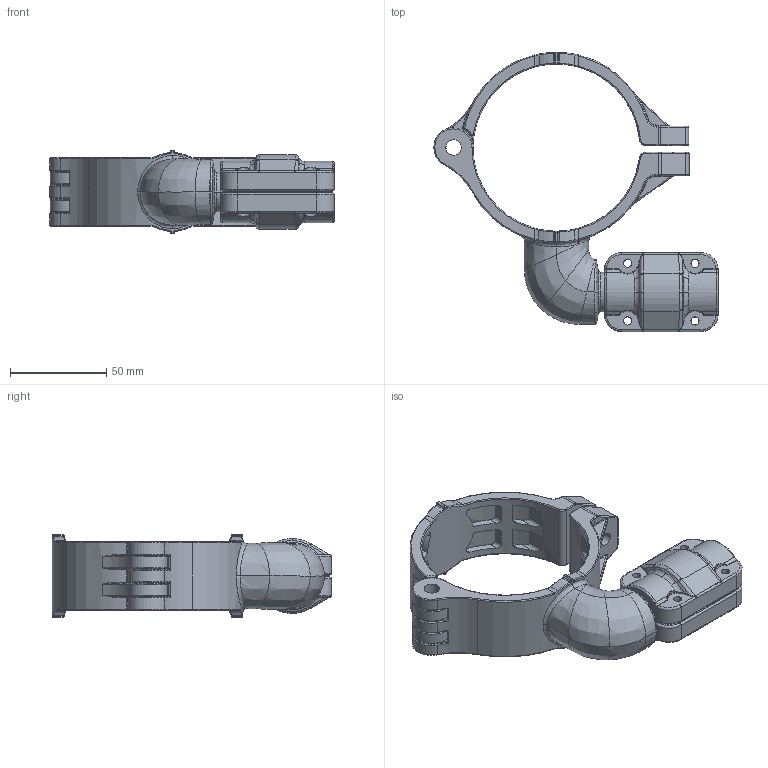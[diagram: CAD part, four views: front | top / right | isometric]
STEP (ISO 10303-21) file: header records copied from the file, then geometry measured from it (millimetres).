
FILE_DESCRIPTION((''),'2;1');
FILE_NAME('2015711099_ASM_4_ASM','2017-05-15T',('Administrator'),(''),'PRO/ENGINEER BY PARAMETRIC TECHNOLOGY CORPORATION, 2009360','PRO/ENGINEER BY PARAMETRIC TECHNOLOGY CORPORATION, 2009360','');
FILE_SCHEMA(('AUTOMOTIVE_DESIGN_CC2 { 1 2 10303 214 -1 1 5 2 }'));
Length unit declared in the file: millimetre
Products named in the file (8): 2017_7110_00_00_1_1; 2016_7210_00_01_1_1; 2016711000_ASM_5_ASM_1_ASM; 2016711000_ASM_ASM_1_ASM; 201510020000_38_1; 201510020001_10_1; 2015100200_ASM_1_ASM; 2015711099_ASM_4_ASM
Assembly tree (7 placements, depth 4):
  2015711099_ASM_4_ASM
    2016711000_ASM_ASM_1_ASM
      2016711000_ASM_5_ASM_1_ASM
        2017_7110_00_00_1_1
        2016_7210_00_01_1_1
    2015100200_ASM_1_ASM
      201510020000_38_1
      201510020001_10_1
Bounding box: 147.61 x 144.98 x 42.94 mm (x, y, z)
Volume: 142311.8 mm3; surface area: 64353.3 mm2
Topology: 4 solids, 10 shells, 979 faces, 2425 edges, 1460 vertices
Faces by surface type: cylinder 351, bspline 268, torus 178, plane 142, sphere 24, cone 16
Entity records: 49986 total; most frequent: CARTESIAN_POINT 21585, ORIENTED_EDGE 4800, DIRECTION 3943, EDGE_CURVE 2400, PRESENTATION_STYLE_ASSIGNMENT 1896, STYLED_ITEM 1896, AXIS2_PLACEMENT_3D 1660, CURVE_STYLE 1530
